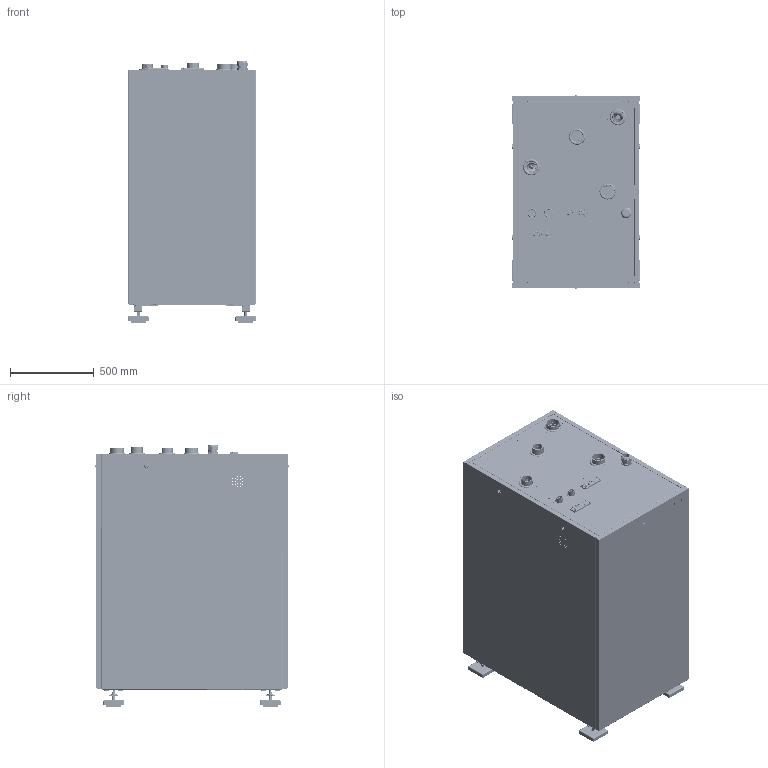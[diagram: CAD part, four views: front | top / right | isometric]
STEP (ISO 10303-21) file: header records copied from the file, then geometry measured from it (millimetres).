
FILE_DESCRIPTION(/* description */ (''),/* implementation_level */ '2;1');
FILE_NAME(/* name */ 'S:\Sami_Timonen_Työt_Myynnin_3D\Zip_paketit_nettisivuille\LÄMPÖPUMPUT\Taurus EVICompact\TAURUS_EVIC_STEP.stp',/* time_stamp */ '2023-12-20T10:48:38+02:00',/* author */ ('sami.timonen'),/* organization */ (''),/* preprocessor_version */ 'ST-DEVELOPER v18.1',/* originating_system */ 'Autodesk Inventor 2021',/* authorisation */ '');
FILE_SCHEMA (('AUTOMOTIVE_DESIGN { 1 0 10303 214 3 1 1 }'));
Products named in the file (1): Taurus_EVIC_80_110_Surface_model_041223
Bounding box: 767 x 1155 x 1570.4 mm (x, y, z)
Volume: 151448414 mm3; surface area: 32592757.8 mm2
Topology: 156 solids, 156 shells, 4449 faces, 10554 edges, 6548 vertices
Faces by surface type: plane 2563, cylinder 1414, cone 194, bspline 157, torus 105, sphere 16
Full cylindrical faces by diameter (mm): 4 x12, 5 x58, 5.5 x148, 6 x44, 7 x152, 7.9 x8, 8 x54, 8.8 x12, 8.88 x4, 9 x8, 9.9 x8, 10 x36, 10.106 x12, 11 x4, 11.5 x8, 11.9 x12, 12 x16, 13 x8, 14 x4, 15 x4, 16 x4, 16.4 x6, 17 x4, 18 x12, 19 x2, 19.5 x6, 20.955 x2, 21 x4, 21.8 x6, 23 x4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
Entity records: 139084 total; most frequent: CARTESIAN_POINT 29375, DIRECTION 21887, ORIENTED_EDGE 21076, EDGE_CURVE 10538, AXIS2_PLACEMENT_3D 7613, LINE 6661, VECTOR 6661, VERTEX_POINT 6548
